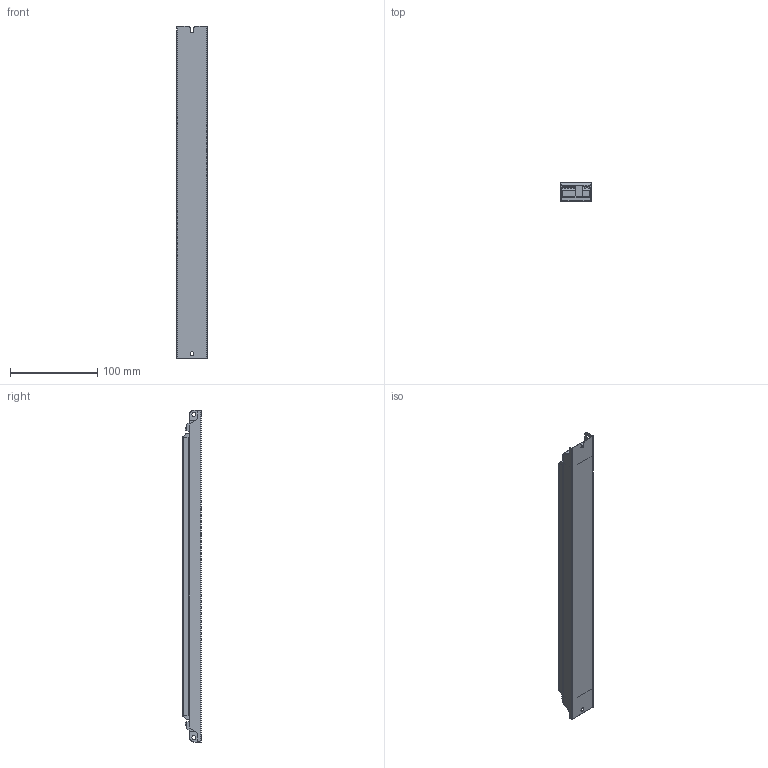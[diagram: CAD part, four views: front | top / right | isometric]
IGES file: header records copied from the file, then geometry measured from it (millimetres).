
Start section:  PTC IGES file: ll-2x35-e-da.igs
Global section: file name: ll-2x35-e-da.igs; native system: Pro/ENGINEER by Parametric Technology Corporation; preprocessor: 2003010; author: RUUSKA_TAPIO; organization: Unknown; date: 140305.103200; units: millimetre
Bounding box: 35 x 21 x 380 mm (x, y, z)
Volume: 248807.4 mm3; surface area: 48701.1 mm2
Topology: 1 solids, 1 shells, 266 faces, 724 edges, 480 vertices
Faces by surface type: bspline 191, revolution 75
